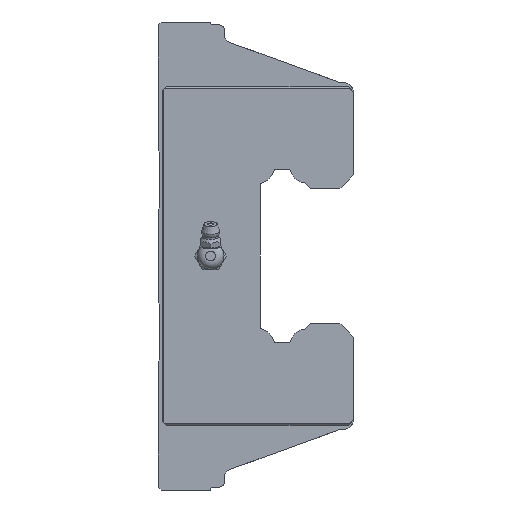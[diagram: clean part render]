
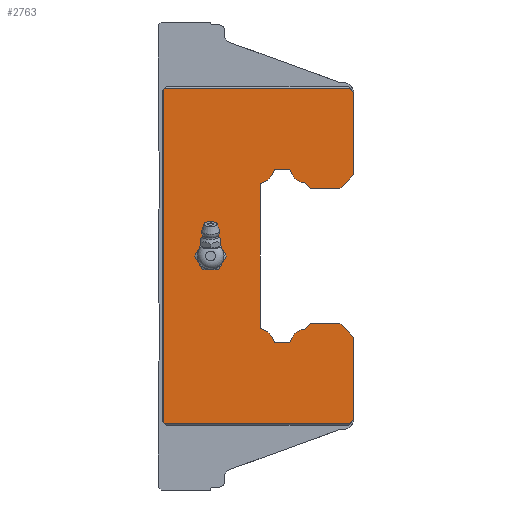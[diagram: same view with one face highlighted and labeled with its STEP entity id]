
A CAD part, left-side view. The second image highlights one B-rep face of the part: STEP entity #2763.
In plain terms, the highlighted planar face has unit normal (-1, 0, 0) as drawn and (1, 0, 0) by its records, which use the part's own axes.
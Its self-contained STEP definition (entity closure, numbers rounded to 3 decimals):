
#140=LINE('',#4017,#402);
#141=LINE('',#4020,#403);
#142=LINE('',#4022,#404);
#143=LINE('',#4024,#405);
#144=LINE('',#4026,#406);
#145=LINE('',#4028,#407);
#146=LINE('',#4030,#408);
#147=LINE('',#4034,#409);
#148=LINE('',#4036,#410);
#149=LINE('',#4038,#411);
#150=LINE('',#4042,#412);
#151=LINE('',#4044,#413);
#152=LINE('',#4046,#414);
#153=LINE('',#4050,#415);
#154=LINE('',#4052,#416);
#155=LINE('',#4054,#417);
#156=LINE('',#4058,#418);
#157=LINE('',#4060,#419);
#158=LINE('',#4062,#420);
#159=LINE('',#4064,#421);
#160=LINE('',#4066,#422);
#161=LINE('',#4068,#423);
#162=LINE('',#4070,#424);
#163=LINE('',#4072,#425);
#402=VECTOR('',#3225,1000.);
#403=VECTOR('',#3226,1000.);
#404=VECTOR('',#3227,1000.);
#405=VECTOR('',#3228,1000.);
#406=VECTOR('',#3229,1000.);
#407=VECTOR('',#3230,1000.);
#408=VECTOR('',#3231,1000.);
#409=VECTOR('',#3234,1000.);
#410=VECTOR('',#3235,1000.);
#411=VECTOR('',#3236,1000.);
#412=VECTOR('',#3239,1000.);
#413=VECTOR('',#3240,1000.);
#414=VECTOR('',#3241,1000.);
#415=VECTOR('',#3244,1000.);
#416=VECTOR('',#3245,1000.);
#417=VECTOR('',#3246,1000.);
#418=VECTOR('',#3249,1000.);
#419=VECTOR('',#3250,1000.);
#420=VECTOR('',#3251,1000.);
#421=VECTOR('',#3252,1000.);
#422=VECTOR('',#3253,1000.);
#423=VECTOR('',#3254,1000.);
#424=VECTOR('',#3255,1000.);
#425=VECTOR('',#3256,1000.);
#664=ORIENTED_EDGE('',*,*,#1462,.F.);
#665=ORIENTED_EDGE('',*,*,#1463,.T.);
#666=ORIENTED_EDGE('',*,*,#1464,.T.);
#667=ORIENTED_EDGE('',*,*,#1465,.T.);
#668=ORIENTED_EDGE('',*,*,#1466,.T.);
#669=ORIENTED_EDGE('',*,*,#1467,.F.);
#670=ORIENTED_EDGE('',*,*,#1468,.F.);
#671=ORIENTED_EDGE('',*,*,#1469,.F.);
#672=ORIENTED_EDGE('',*,*,#1470,.T.);
#673=ORIENTED_EDGE('',*,*,#1471,.F.);
#674=ORIENTED_EDGE('',*,*,#1472,.F.);
#675=ORIENTED_EDGE('',*,*,#1473,.F.);
#676=ORIENTED_EDGE('',*,*,#1474,.T.);
#677=ORIENTED_EDGE('',*,*,#1475,.F.);
#678=ORIENTED_EDGE('',*,*,#1476,.F.);
#679=ORIENTED_EDGE('',*,*,#1477,.F.);
#680=ORIENTED_EDGE('',*,*,#1478,.T.);
#681=ORIENTED_EDGE('',*,*,#1479,.F.);
#682=ORIENTED_EDGE('',*,*,#1480,.F.);
#683=ORIENTED_EDGE('',*,*,#1481,.F.);
#684=ORIENTED_EDGE('',*,*,#1482,.T.);
#685=ORIENTED_EDGE('',*,*,#1483,.F.);
#686=ORIENTED_EDGE('',*,*,#1484,.F.);
#687=ORIENTED_EDGE('',*,*,#1485,.T.);
#688=ORIENTED_EDGE('',*,*,#1486,.T.);
#689=ORIENTED_EDGE('',*,*,#1487,.T.);
#690=ORIENTED_EDGE('',*,*,#1488,.F.);
#691=ORIENTED_EDGE('',*,*,#1489,.T.);
#692=ORIENTED_EDGE('',*,*,#1490,.F.);
#1462=EDGE_CURVE('',#1861,#1861,#2141,.T.);
#1463=EDGE_CURVE('',#1862,#1863,#140,.T.);
#1464=EDGE_CURVE('',#1863,#1864,#141,.T.);
#1465=EDGE_CURVE('',#1864,#1865,#142,.T.);
#1466=EDGE_CURVE('',#1865,#1866,#143,.T.);
#1467=EDGE_CURVE('',#1867,#1866,#144,.T.);
#1468=EDGE_CURVE('',#1868,#1867,#145,.T.);
#1469=EDGE_CURVE('',#1869,#1868,#146,.T.);
#1470=EDGE_CURVE('',#1869,#1870,#2142,.T.);
#1471=EDGE_CURVE('',#1871,#1870,#147,.T.);
#1472=EDGE_CURVE('',#1872,#1871,#148,.T.);
#1473=EDGE_CURVE('',#1873,#1872,#149,.T.);
#1474=EDGE_CURVE('',#1873,#1874,#2143,.T.);
#1475=EDGE_CURVE('',#1875,#1874,#150,.T.);
#1476=EDGE_CURVE('',#1876,#1875,#151,.T.);
#1477=EDGE_CURVE('',#1877,#1876,#152,.T.);
#1478=EDGE_CURVE('',#1877,#1878,#2144,.T.);
#1479=EDGE_CURVE('',#1879,#1878,#153,.T.);
#1480=EDGE_CURVE('',#1880,#1879,#154,.T.);
#1481=EDGE_CURVE('',#1881,#1880,#155,.T.);
#1482=EDGE_CURVE('',#1881,#1882,#2145,.T.);
#1483=EDGE_CURVE('',#1883,#1882,#156,.T.);
#1484=EDGE_CURVE('',#1884,#1883,#157,.T.);
#1485=EDGE_CURVE('',#1884,#1885,#158,.T.);
#1486=EDGE_CURVE('',#1885,#1886,#159,.T.);
#1487=EDGE_CURVE('',#1886,#1887,#160,.T.);
#1488=EDGE_CURVE('',#1888,#1887,#161,.T.);
#1489=EDGE_CURVE('',#1888,#1889,#162,.T.);
#1490=EDGE_CURVE('',#1862,#1889,#163,.T.);
#1861=VERTEX_POINT('',#4016);
#1862=VERTEX_POINT('',#4018);
#1863=VERTEX_POINT('',#4019);
#1864=VERTEX_POINT('',#4021);
#1865=VERTEX_POINT('',#4023);
#1866=VERTEX_POINT('',#4025);
#1867=VERTEX_POINT('',#4027);
#1868=VERTEX_POINT('',#4029);
#1869=VERTEX_POINT('',#4031);
#1870=VERTEX_POINT('',#4033);
#1871=VERTEX_POINT('',#4035);
#1872=VERTEX_POINT('',#4037);
#1873=VERTEX_POINT('',#4039);
#1874=VERTEX_POINT('',#4041);
#1875=VERTEX_POINT('',#4043);
#1876=VERTEX_POINT('',#4045);
#1877=VERTEX_POINT('',#4047);
#1878=VERTEX_POINT('',#4049);
#1879=VERTEX_POINT('',#4051);
#1880=VERTEX_POINT('',#4053);
#1881=VERTEX_POINT('',#4055);
#1882=VERTEX_POINT('',#4057);
#1883=VERTEX_POINT('',#4059);
#1884=VERTEX_POINT('',#4061);
#1885=VERTEX_POINT('',#4063);
#1886=VERTEX_POINT('',#4065);
#1887=VERTEX_POINT('',#4067);
#1888=VERTEX_POINT('',#4069);
#1889=VERTEX_POINT('',#4071);
#2141=CIRCLE('',#2955,4.864);
#2142=CIRCLE('',#2956,4.9);
#2143=CIRCLE('',#2957,4.9);
#2144=CIRCLE('',#2958,4.9);
#2145=CIRCLE('',#2959,4.9);
#2230=EDGE_LOOP('',(#664));
#2231=EDGE_LOOP('',(#665,#666,#667,#668,#669,#670,#671,#672,#673,#674,#675,
#676,#677,#678,#679,#680,#681,#682,#683,#684,#685,#686,#687,#688,#689,#690,
#691,#692));
#2443=FACE_BOUND('',#2230,.T.);
#2444=FACE_BOUND('',#2231,.T.);
#2658=PLANE('',#2954);
#2763=ADVANCED_FACE('',(#2443,#2444),#2658,.T.);
#2954=AXIS2_PLACEMENT_3D('',#4014,#3221,#3222);
#2955=AXIS2_PLACEMENT_3D('',#4015,#3223,#3224);
#2956=AXIS2_PLACEMENT_3D('',#4032,#3232,#3233);
#2957=AXIS2_PLACEMENT_3D('',#4040,#3237,#3238);
#2958=AXIS2_PLACEMENT_3D('',#4048,#3242,#3243);
#2959=AXIS2_PLACEMENT_3D('',#4056,#3247,#3248);
#3221=DIRECTION('',(1.,0.,0.));
#3222=DIRECTION('',(0.,0.,-1.));
#3223=DIRECTION('',(1.,0.,0.));
#3224=DIRECTION('',(0.,0.,-1.));
#3225=DIRECTION('',(0.,-0.707,0.707));
#3226=DIRECTION('',(0.,-1.,0.));
#3227=DIRECTION('',(0.,-0.707,-0.707));
#3228=DIRECTION('',(0.,0.,-1.));
#3229=DIRECTION('',(0.,-0.707,0.707));
#3230=DIRECTION('',(0.,-1.,0.));
#3231=DIRECTION('',(0.,-0.707,-0.707));
#3232=DIRECTION('',(1.,0.,0.));
#3233=DIRECTION('',(0.,0.,-1.));
#3234=DIRECTION('',(0.,-0.425,-0.905));
#3235=DIRECTION('',(0.,-1.,0.));
#3236=DIRECTION('',(0.,-0.425,0.905));
#3237=DIRECTION('',(1.,0.,0.));
#3238=DIRECTION('',(0.,0.,-1.));
#3239=DIRECTION('',(0.,-0.905,0.425));
#3240=DIRECTION('',(0.,0.,1.));
#3241=DIRECTION('',(0.,0.905,0.425));
#3242=DIRECTION('',(1.,0.,0.));
#3243=DIRECTION('',(0.,0.,-1.));
#3244=DIRECTION('',(0.,0.425,0.905));
#3245=DIRECTION('',(0.,1.,0.));
#3246=DIRECTION('',(0.,0.425,-0.905));
#3247=DIRECTION('',(1.,0.,0.));
#3248=DIRECTION('',(0.,0.,-1.));
#3249=DIRECTION('',(0.,0.707,-0.707));
#3250=DIRECTION('',(0.,1.,0.));
#3251=DIRECTION('',(0.,-0.707,-0.707));
#3252=DIRECTION('',(0.,0.,-1.));
#3253=DIRECTION('',(0.,0.707,-0.707));
#3254=DIRECTION('',(0.,-1.,0.));
#3255=DIRECTION('',(0.,0.707,0.707));
#3256=DIRECTION('',(0.,0.,-1.));
#4014=CARTESIAN_POINT('',(110.5,0.,0.));
#4015=CARTESIAN_POINT('',(110.5,52.,0.));
#4016=CARTESIAN_POINT('',(110.5,52.,-4.864));
#4017=CARTESIAN_POINT('',(110.5,69.5,60.));
#4018=CARTESIAN_POINT('',(110.5,69.,60.5));
#4019=CARTESIAN_POINT('',(110.5,68.5,61.));
#4020=CARTESIAN_POINT('',(110.5,71.,61.));
#4021=CARTESIAN_POINT('',(110.5,1.5,61.));
#4022=CARTESIAN_POINT('',(110.5,2.,61.5));
#4023=CARTESIAN_POINT('',(110.5,0.,59.5));
#4024=CARTESIAN_POINT('',(110.5,0.,59.5));
#4025=CARTESIAN_POINT('',(110.5,0.,29.5));
#4026=CARTESIAN_POINT('',(110.5,5.,24.5));
#4027=CARTESIAN_POINT('',(110.5,5.,24.5));
#4028=CARTESIAN_POINT('',(110.5,15.8,24.5));
#4029=CARTESIAN_POINT('',(110.5,15.8,24.5));
#4030=CARTESIAN_POINT('',(110.5,17.998,26.698));
#4031=CARTESIAN_POINT('',(110.5,17.998,26.698));
#4032=CARTESIAN_POINT('',(110.5,17.903,31.597));
#4033=CARTESIAN_POINT('',(110.5,22.338,29.514));
#4034=CARTESIAN_POINT('',(110.5,23.271,31.5));
#4035=CARTESIAN_POINT('',(110.5,23.271,31.5));
#4036=CARTESIAN_POINT('',(110.5,28.73,31.5));
#4037=CARTESIAN_POINT('',(110.5,28.73,31.5));
#4038=CARTESIAN_POINT('',(110.5,29.661,29.516));
#4039=CARTESIAN_POINT('',(110.5,29.661,29.516));
#4040=CARTESIAN_POINT('',(110.5,34.097,31.597));
#4041=CARTESIAN_POINT('',(110.5,32.016,27.161));
#4042=CARTESIAN_POINT('',(110.5,34.,26.23));
#4043=CARTESIAN_POINT('',(110.5,34.,26.23));
#4044=CARTESIAN_POINT('',(110.5,34.,-26.23));
#4045=CARTESIAN_POINT('',(110.5,34.,-26.23));
#4046=CARTESIAN_POINT('',(110.5,32.016,-27.161));
#4047=CARTESIAN_POINT('',(110.5,32.016,-27.161));
#4048=CARTESIAN_POINT('',(110.5,34.097,-31.597));
#4049=CARTESIAN_POINT('',(110.5,29.661,-29.516));
#4050=CARTESIAN_POINT('',(110.5,28.73,-31.5));
#4051=CARTESIAN_POINT('',(110.5,28.73,-31.5));
#4052=CARTESIAN_POINT('',(110.5,23.271,-31.5));
#4053=CARTESIAN_POINT('',(110.5,23.271,-31.5));
#4054=CARTESIAN_POINT('',(110.5,22.338,-29.514));
#4055=CARTESIAN_POINT('',(110.5,22.338,-29.514));
#4056=CARTESIAN_POINT('',(110.5,17.903,-31.597));
#4057=CARTESIAN_POINT('',(110.5,17.998,-26.698));
#4058=CARTESIAN_POINT('',(110.5,15.8,-24.5));
#4059=CARTESIAN_POINT('',(110.5,15.8,-24.5));
#4060=CARTESIAN_POINT('',(110.5,5.,-24.5));
#4061=CARTESIAN_POINT('',(110.5,5.,-24.5));
#4062=CARTESIAN_POINT('',(110.5,14.75,-14.75));
#4063=CARTESIAN_POINT('',(110.5,0.,-29.5));
#4064=CARTESIAN_POINT('',(110.5,0.,59.5));
#4065=CARTESIAN_POINT('',(110.5,0.,-59.5));
#4066=CARTESIAN_POINT('',(110.5,0.,-59.5));
#4067=CARTESIAN_POINT('',(110.5,1.5,-61.));
#4068=CARTESIAN_POINT('',(110.5,71.,-61.));
#4069=CARTESIAN_POINT('',(110.5,68.5,-61.));
#4070=CARTESIAN_POINT('',(110.5,68.,-61.5));
#4071=CARTESIAN_POINT('',(110.5,69.,-60.5));
#4072=CARTESIAN_POINT('',(110.5,69.,61.5));
